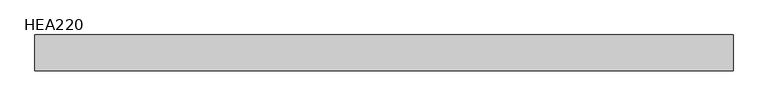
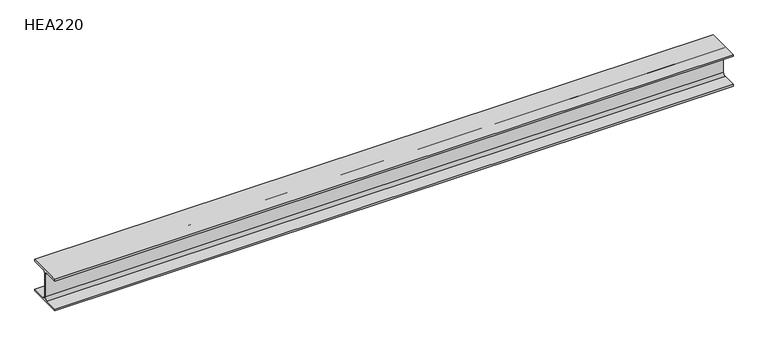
"""IFC4 building model written with IfcOpenShell, lengths in millimetres: beam geometry, HE-A : HEA220."""

from ifc_helpers import new_model, si_unit, point, frame, frame_2d, origin, place, context, project, spatial, polyline, circle_curve, trimmed, segment, composite_curve, outline, extrude, source, transform, mapped, element, save


def hea220_70436586(model_context):
    return source(origin(), model_context, "Body", "SweptSolid", [
        extrude(outline(composite_curve([segment(polyline([(110.0, -94.0), (110.0, -105.0), (-110.0, -105.0), (-110.0, -94.0), (-21.5, -94.0)]), True, "CONTINUOUS"), segment(trimmed(circle_curve(frame_2d((-21.5, -76.0)), 18.0), [point((-21.5, -94.0))], [point((-3.5, -76.0))], True, "CARTESIAN"), True, "CONTINUOUS"), segment(polyline([(-3.5, -76.0), (-3.5, 76.0)]), True, "CONTINUOUS"), segment(trimmed(circle_curve(frame_2d((-21.5, 76.0)), 18.0), [point((-3.5, 76.0))], [point((-21.5, 94.0))], True, "CARTESIAN"), True, "CONTINUOUS"), segment(polyline([(-21.5, 94.0), (-110.0, 94.0), (-110.0, 105.0), (110.0, 105.0), (110.0, 94.0), (21.5, 94.0)]), True, "CONTINUOUS"), segment(trimmed(circle_curve(frame_2d((21.5, 76.0)), 18.0), [point((21.5, 94.0))], [point((3.5, 76.0))], True, "CARTESIAN"), True, "CONTINUOUS"), segment(polyline([(3.5, 76.0), (3.5, -76.0)]), True, "CONTINUOUS"), segment(trimmed(circle_curve(frame_2d((21.5, -76.0)), 18.0), [point((3.5, -76.0))], [point((21.5, -94.0))], True, "CARTESIAN"), True, "CONTINUOUS"), segment(polyline([(21.5, -94.0), (110.0, -94.0)]), True, "CONTINUOUS")], self_intersect=False)), frame((-2150.25, 0.0, 0.0), z_axis=(1.0, 0.0, 0.0), x_axis=(0.0, 1.0, 0.0)), (0.0, 0.0, 1.0), 4300.5),
    ])


if __name__ == "__main__":
    model = new_model("IFC4")
    model_context = context("Model", 3, world=origin())
    ifc_project = project(units=[si_unit("LENGTHUNIT", "METRE", prefix="MILLI")], contexts=[model_context])
    site = spatial("IfcSite", under=ifc_project)
    building = spatial("IfcBuilding", under=site)
    placement = place(None, origin())
    hea220_shape = hea220_70436586(model_context)
    element("IfcBeam", 1, ObjectType="HE-A : HEA220", at=placement, inside=building, context=model_context, shape_type="MappedRepresentation", body=[
        mapped(hea220_shape, transform((0.0, 0.0, 0.0), x_axis=(1.0, 0.0, 0.0), y_axis=(0.0, 1.0, 0.0), z_axis=(0.0, 0.0, 1.0))),
    ])
    save(model, "model.ifc")
